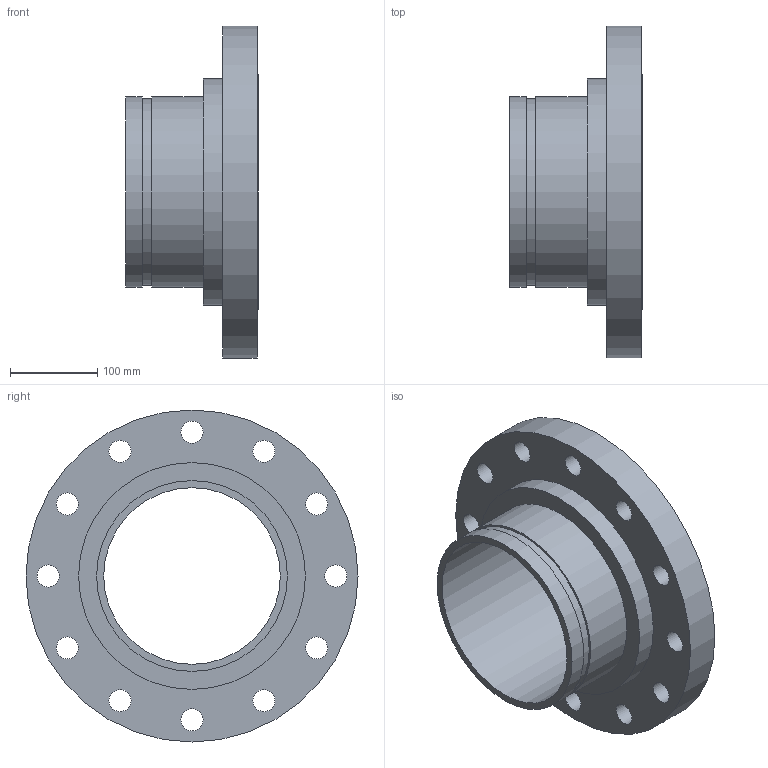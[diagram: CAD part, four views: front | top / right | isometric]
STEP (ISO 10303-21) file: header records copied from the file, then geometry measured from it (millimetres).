
FILE_DESCRIPTION(/* description */ ('VIC FLANGE ADAPTER No 46R','CAx-IF Rec.Pracs.---Representation and Presentation of Product Manufacturing Information (PMI)---4.0---2014-10-13'),/* implementation_level */ '2;1');
FILE_NAME(/* name */ 'C:\Users\kkamble\AppData\Roaming\Autodesk\ApplicationPlugins\Back Up\Victaulic_IPS_Flanged Adapter Nipple_CL 300 RF_No 46R (OGSxFLG)\Victaulic_IPS_Flanged Adapter Nipple_CL 300 RF_No 46R (OGSxFLG)_8 (200).stp',/* time_stamp */ '2020-07-26T22:25:59+06:00',/* author */ ('CONSTRUCTION PIPING SERVICES'),/* organization */ ('Victaulic'),/* preprocessor_version */ 'ST-DEVELOPER v17.2',/* originating_system */ 'Autodesk Inventor 2019',/* authorisation */ '');
FILE_SCHEMA (('AP242_MANAGED_MODEL_BASED_3D_ENGINEERING_MIM_LF { 1 0 10303 442 1 1 4 }'));
Length unit declared in the file: inch
Products named in the file (1): 046R-08.0
Bounding box: 152.4 x 381 x 381 mm (x, y, z)
Volume: 3968137.2 mm3; surface area: 417510.7 mm2
Topology: 1 solids, 1 shells, 26 faces, 71 edges, 52 vertices
Faces by surface type: cylinder 19, plane 7
Full cylindrical faces by diameter (mm): 25.4 x12, 202.717 x1, 214.401 x1, 219.075 x2, 260.35 x1, 269.748 x1, 381 x1
Entity records: 1009 total; most frequent: DIRECTION 177, CARTESIAN_POINT 150, ORIENTED_EDGE 142, AXIS2_PLACEMENT_3D 79, EDGE_CURVE 71, EDGE_LOOP 57, CIRCLE 52, VERTEX_POINT 52
